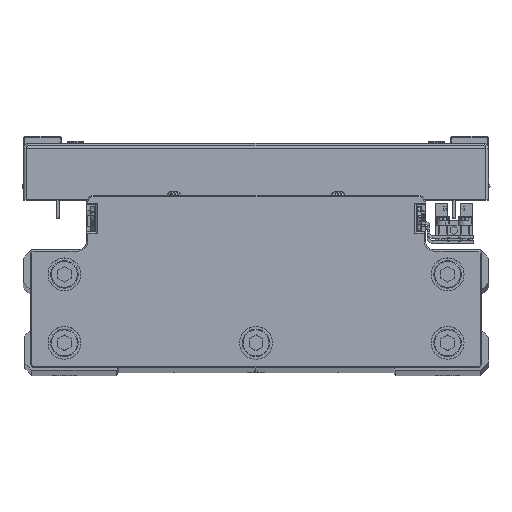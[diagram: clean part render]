
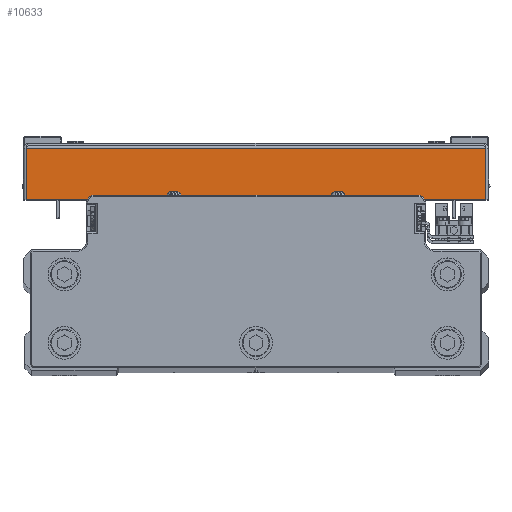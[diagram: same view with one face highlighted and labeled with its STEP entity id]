
A CAD part, top view. The second image highlights one B-rep face of the part: STEP entity #10633.
In plain terms, the highlighted planar face has unit normal (0, 0, 1) as drawn and (1, 0, 0) by its records, which use the part's own axes.
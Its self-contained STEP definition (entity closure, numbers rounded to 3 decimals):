
#1498 = CARTESIAN_POINT ( 'NONE',  ( 110., 0., -83.929 ) ) ;
#2313 = VERTEX_POINT ( 'NONE', #27075 ) ;
#2465 = DIRECTION ( 'NONE',  ( 0., 0., 1. ) ) ;
#2643 = EDGE_CURVE ( 'NONE', #2313, #23201, #33026, .T. ) ;
#3354 = DIRECTION ( 'NONE',  ( 0., -1., 0. ) ) ;
#4349 = VERTEX_POINT ( 'NONE', #40120 ) ;
#5123 = CARTESIAN_POINT ( 'NONE',  ( 110., 19.5, -83.929 ) ) ;
#6811 = PLANE ( 'NONE',  #24112 ) ;
#7614 = ORIENTED_EDGE ( 'NONE', *, *, #43037, .F. ) ;
#7634 = EDGE_CURVE ( 'NONE', #23201, #4349, #19951, .T. ) ;
#8916 = CARTESIAN_POINT ( 'NONE',  ( 110., 0., 83.929 ) ) ;
#9797 = ORIENTED_EDGE ( 'NONE', *, *, #2643, .T. ) ;
#10402 = CARTESIAN_POINT ( 'NONE',  ( 110., 1., 85. ) ) ;
#10633 = ADVANCED_FACE ( 'NONE', ( #38344 ), #6811, .F. ) ;
#14561 = ORIENTED_EDGE ( 'NONE', *, *, #35001, .F. ) ;
#15536 = DIRECTION ( 'NONE',  ( 0., 1., 0. ) ) ;
#19248 = ORIENTED_EDGE ( 'NONE', *, *, #7634, .T. ) ;
#19292 = VECTOR ( 'NONE', #2465, 1000. ) ;
#19951 = LINE ( 'NONE', #34002, #19292 ) ;
#20851 = CARTESIAN_POINT ( 'NONE',  ( 110., 0., 0. ) ) ;
#21912 = VECTOR ( 'NONE', #24438, 1000. ) ;
#22053 = VECTOR ( 'NONE', #15536, 1000. ) ;
#22959 = DIRECTION ( 'NONE',  ( 0., 1., 0. ) ) ;
#23201 = VERTEX_POINT ( 'NONE', #5123 ) ;
#24112 = AXIS2_PLACEMENT_3D ( 'NONE', #20851, #34895, #3354 ) ;
#24438 = DIRECTION ( 'NONE',  ( 0., 0., 1. ) ) ;
#27075 = CARTESIAN_POINT ( 'NONE',  ( 110., 1., -83.929 ) ) ;
#28621 = CARTESIAN_POINT ( 'NONE',  ( 110., 1., 83.929 ) ) ;
#31815 = EDGE_LOOP ( 'NONE', ( #7614, #9797, #19248, #14561 ) ) ;
#33026 = LINE ( 'NONE', #1498, #22053 ) ;
#34002 = CARTESIAN_POINT ( 'NONE',  ( 110., 19.5, 0. ) ) ;
#34895 = DIRECTION ( 'NONE',  ( -1., 0., 0. ) ) ;
#35001 = EDGE_CURVE ( 'NONE', #43746, #4349, #40433, .T. ) ;
#38344 = FACE_OUTER_BOUND ( 'NONE', #31815, .T. ) ;
#40120 = CARTESIAN_POINT ( 'NONE',  ( 110., 19.5, 83.929 ) ) ;
#40433 = LINE ( 'NONE', #8916, #42184 ) ;
#41935 = LINE ( 'NONE', #10402, #21912 ) ;
#42184 = VECTOR ( 'NONE', #22959, 1000. ) ;
#43037 = EDGE_CURVE ( 'NONE', #2313, #43746, #41935, .T. ) ;
#43746 = VERTEX_POINT ( 'NONE', #28621 ) ;
